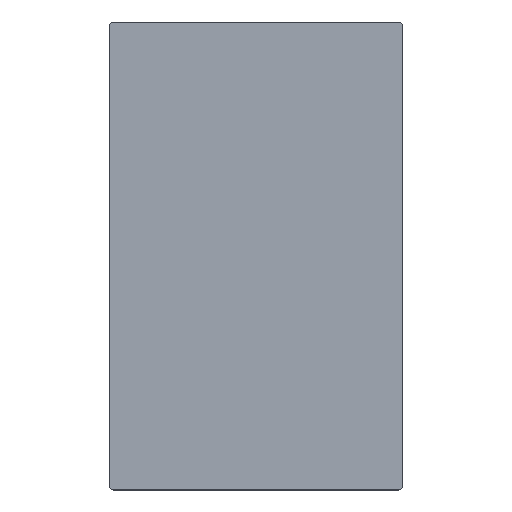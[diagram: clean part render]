
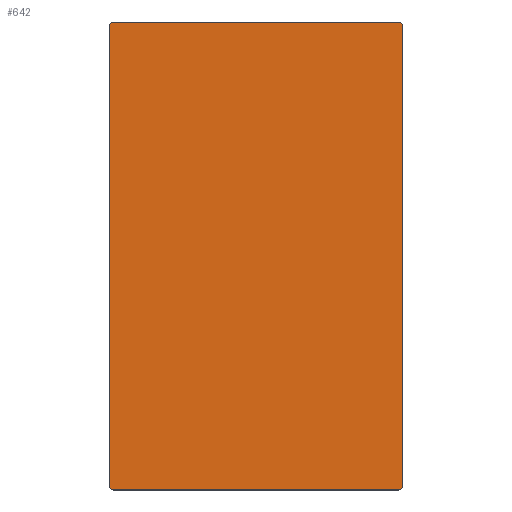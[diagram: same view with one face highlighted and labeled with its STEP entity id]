
A CAD part, top view. The second image highlights one B-rep face of the part: STEP entity #642.
In plain terms, the highlighted planar face has unit normal (0, 0, 1).
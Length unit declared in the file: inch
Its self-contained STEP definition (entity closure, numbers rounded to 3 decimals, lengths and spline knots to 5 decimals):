
#29=PLANE('',#717);
#56=FACE_OUTER_BOUND('',#106,.T.);
#106=EDGE_LOOP('',(#489,#490,#491,#492,#493,#494,#495,#496));
#147=LINE('',#996,#201);
#161=LINE('',#1057,#215);
#163=LINE('',#1060,#217);
#165=LINE('',#1067,#219);
#201=VECTOR('',#783,0.3937);
#215=VECTOR('',#835,0.3937);
#217=VECTOR('',#839,0.3937);
#219=VECTOR('',#847,0.3937);
#251=CIRCLE('',#692,0.125);
#268=CIRCLE('',#712,0.125);
#269=CIRCLE('',#716,0.125);
#270=CIRCLE('',#718,0.125);
#287=VERTEX_POINT('',#983);
#288=VERTEX_POINT('',#984);
#292=VERTEX_POINT('',#994);
#318=VERTEX_POINT('',#1050);
#319=VERTEX_POINT('',#1051);
#320=VERTEX_POINT('',#1056);
#321=VERTEX_POINT('',#1062);
#322=VERTEX_POINT('',#1066);
#347=EDGE_CURVE('',#287,#288,#251,.T.);
#353=EDGE_CURVE('',#287,#292,#147,.F.);
#380=EDGE_CURVE('',#318,#319,#268,.T.);
#383=EDGE_CURVE('',#320,#319,#161,.F.);
#385=EDGE_CURVE('',#318,#288,#163,.F.);
#387=EDGE_CURVE('',#321,#292,#269,.T.);
#388=EDGE_CURVE('',#321,#322,#165,.F.);
#389=EDGE_CURVE('',#320,#322,#270,.T.);
#489=ORIENTED_EDGE('',*,*,#347,.F.);
#490=ORIENTED_EDGE('',*,*,#353,.T.);
#491=ORIENTED_EDGE('',*,*,#387,.F.);
#492=ORIENTED_EDGE('',*,*,#388,.T.);
#493=ORIENTED_EDGE('',*,*,#389,.F.);
#494=ORIENTED_EDGE('',*,*,#383,.T.);
#495=ORIENTED_EDGE('',*,*,#380,.F.);
#496=ORIENTED_EDGE('',*,*,#385,.T.);
#642=ADVANCED_FACE('',(#56),#29,.F.);
#692=AXIS2_PLACEMENT_3D('',#985,#773,#774);
#712=AXIS2_PLACEMENT_3D('',#1052,#829,#830);
#716=AXIS2_PLACEMENT_3D('',#1064,#843,#844);
#717=AXIS2_PLACEMENT_3D('',#1065,#845,#846);
#718=AXIS2_PLACEMENT_3D('',#1068,#848,#849);
#773=DIRECTION('center_axis',(0.,0.,-1.));
#774=DIRECTION('ref_axis',(-0.707,-0.707,0.));
#783=DIRECTION('',(-1.,0.,0.));
#829=DIRECTION('center_axis',(0.,0.,-1.));
#830=DIRECTION('ref_axis',(-0.707,0.707,0.));
#835=DIRECTION('',(1.,0.,0.));
#839=DIRECTION('',(0.,1.,0.));
#843=DIRECTION('center_axis',(0.,0.,-1.));
#844=DIRECTION('ref_axis',(0.707,-0.707,0.));
#845=DIRECTION('center_axis',(0.,0.,-1.));
#846=DIRECTION('ref_axis',(0.,1.,0.));
#847=DIRECTION('',(0.,-1.,0.));
#848=DIRECTION('center_axis',(0.,0.,-1.));
#849=DIRECTION('ref_axis',(0.707,0.707,0.));
#983=CARTESIAN_POINT('',(-0.875,-2.,1.5));
#984=CARTESIAN_POINT('',(-1.,-1.875,1.5));
#985=CARTESIAN_POINT('Origin',(-0.875,-1.875,1.5));
#994=CARTESIAN_POINT('',(8.875,-2.,1.5));
#996=CARTESIAN_POINT('',(0.,-2.,1.5));
#1050=CARTESIAN_POINT('',(-1.,13.875,1.5));
#1051=CARTESIAN_POINT('',(-0.875,14.,1.5));
#1052=CARTESIAN_POINT('Origin',(-0.875,13.875,1.5));
#1056=CARTESIAN_POINT('',(8.875,14.,1.5));
#1057=CARTESIAN_POINT('',(0.,14.,1.5));
#1060=CARTESIAN_POINT('',(-1.,6.,1.5));
#1062=CARTESIAN_POINT('',(9.,-1.875,1.5));
#1064=CARTESIAN_POINT('Origin',(8.875,-1.875,1.5));
#1065=CARTESIAN_POINT('Origin',(0.,12.,1.5));
#1066=CARTESIAN_POINT('',(9.,13.875,1.5));
#1067=CARTESIAN_POINT('',(9.,6.,1.5));
#1068=CARTESIAN_POINT('Origin',(8.875,13.875,1.5));
